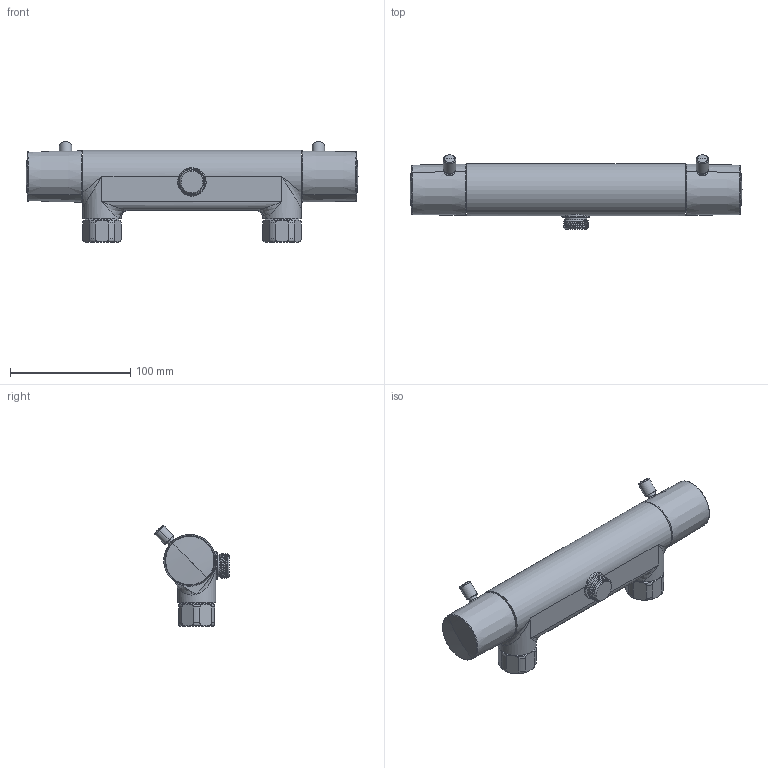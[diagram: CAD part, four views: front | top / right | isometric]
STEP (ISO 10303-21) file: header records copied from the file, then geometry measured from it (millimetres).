
FILE_DESCRIPTION((''),'2;1');
FILE_NAME('57451--00','2026-09-10T13:11:39',('simi1'),(''),'CREO PARAMETRIC BY PTC INC, 2022244','CREO PARAMETRIC BY PTC INC, 2022244','');
FILE_SCHEMA(('AUTOMOTIVE_DESIGN { 1 0 10303 214 1 1 1 1 }'));
Length unit declared in the file: millimetre
Products named in the file (1): 57451--00
Bounding box: 276.55 x 61.87 x 84.02 mm (x, y, z)
Surface area: 58015.6 mm2 (no closed solid volume)
Topology: 0 solids, 9 shells, 165 faces, 421 edges, 256 vertices
Faces by surface type: torus 44, cylinder 38, plane 31, bspline 26, cone 18, sphere 8
Entity records: 9473 total; most frequent: CARTESIAN_POINT 4997, ORIENTED_EDGE 791, DIRECTION 695, EDGE_CURVE 413, AXIS2_PLACEMENT_3D 305, VERTEX_POINT 256, CIRCLE 166, EDGE_LOOP 165
